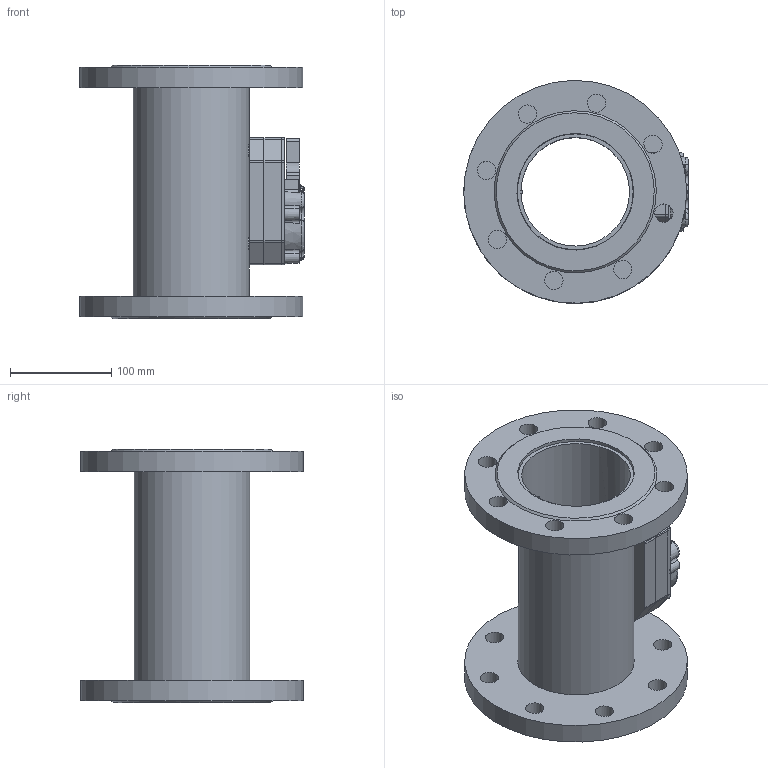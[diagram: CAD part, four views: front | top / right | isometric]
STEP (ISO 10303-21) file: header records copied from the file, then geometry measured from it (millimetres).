
FILE_DESCRIPTION( ( 'Unknown' ), '1' );
FILE_NAME( 'H:/440 pour vente_mai_2013/step_2/DN100_PN16_inox_250mm_rempli.stp', 'Unknown', ( 'Unknown' ), ( 'Unknown' ), 'PSStep 15.0.49', 'Unknown', ' ' );
FILE_SCHEMA( ( 'AUTOMOTIVE_DESIGN { 1 0 10303 214 1 1 1 1 }' ) );
Length unit declared in the file: millimetre
Products named in the file (9): 440_tête_rempli; 0440P011_rempli; 0440P012_rempli; 0440P060_rempli; Assem1; 0440P225_rempli; 0440P202_rempli; 0440P229_rempli; 0440P210_rempli
Assembly tree (10 placements, depth 3):
  Assem1
    0440P225_rempli  x2
    0440P202_rempli
    0440P229_rempli
    0440P210_rempli  x2
    440_tête_rempli
      0440P011_rempli
      0440P012_rempli
      0440P060_rempli
Bounding box: 221.45 x 219.93 x 250 mm (x, y, z)
Volume: 1745696.1 mm3; surface area: 427441.8 mm2
Topology: 9 solids, 14 shells, 276 faces, 701 edges, 440 vertices
Faces by surface type: cylinder 96, plane 79, cone 57, torus 29, bspline 15
Full cylindrical faces by diameter (mm): 2.2 x1, 2.459 x2, 2.5 x1, 3 x2, 3.242 x4, 4.1 x1, 5.03 x1, 6 x1, 6.2 x6, 6.917 x2, 10.2 x2, 16 x2, 18 x16, 20 x4, 109 x1, 114.3 x1, 115 x2, 220 x2
Entity records: 13578 total; most frequent: CARTESIAN_POINT 5532, DIRECTION 1281, ORIENTED_EDGE 1090, EDGE_CURVE 545, AXIS2_PLACEMENT_3D 538, VERTEX_POINT 377, EDGE_LOOP 362, FACE_OUTER_BOUND 297
